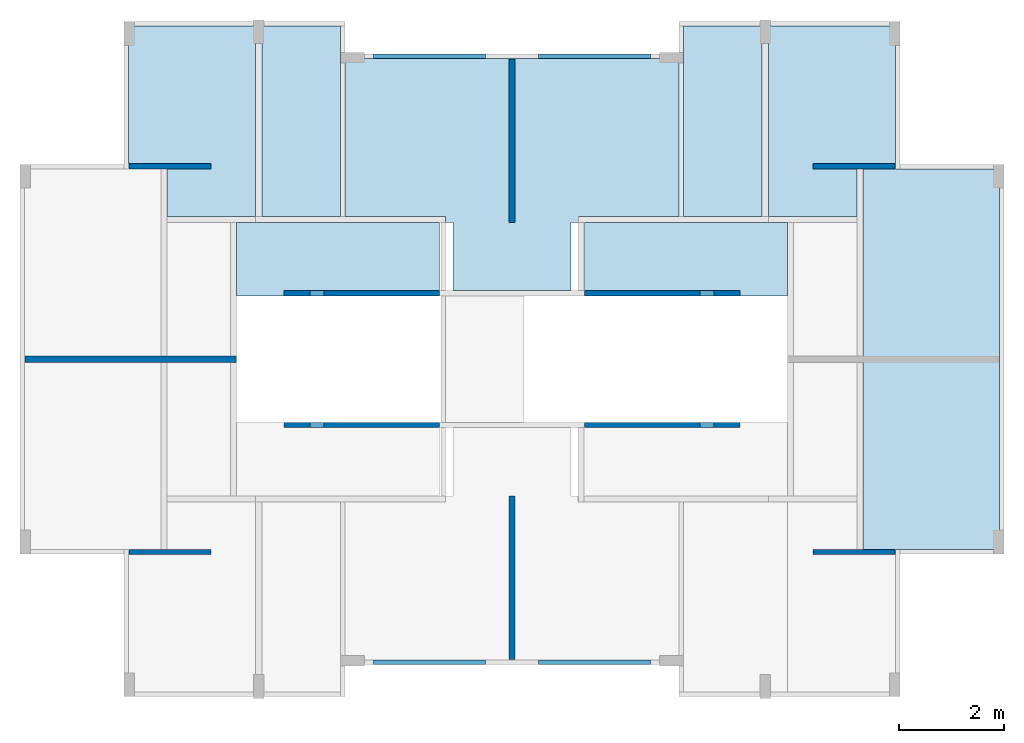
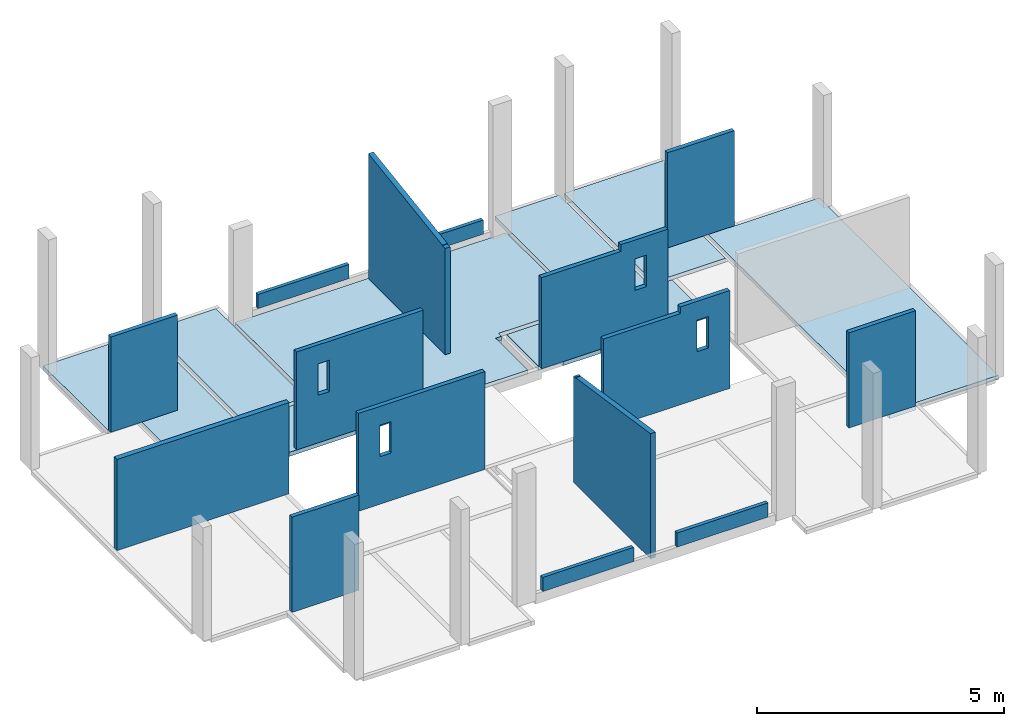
# One storey, part 4 of 5: 15 walls, 8 slabs, 4 openings.
"""IFC4 building model written with IfcOpenShell, lengths in metres."""

from ifc_helpers import new_model, entity, si_unit, converted_unit, derived_unit, direction, frame, frame_2d, origin, place, context, subcontext, project, spatial, polyline, indexed_curve, rectangle, outline, extrude, polygons, material, type_object, element, save


model = new_model("IFC4")

# Units and contexts
model_context = context("Model", 3, precision=1e-05, world=origin(), true_north=direction((6.123031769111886e-17, 1.0)))
body_context = subcontext(model_context, "Body", "Model", "MODEL_VIEW")
ifc_project = project(units=[si_unit("LENGTHUNIT", "METRE"), si_unit("AREAUNIT", "SQUARE_METRE"), si_unit("VOLUMEUNIT", "CUBIC_METRE"), converted_unit("PLANEANGLEUNIT", "DEGREE", entity("IfcRatioMeasure", 0.017453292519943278), si_unit("PLANEANGLEUNIT", "RADIAN"), dimensions=[0, 0, 0, 0, 0, 0, 0]), si_unit("MASSUNIT", "GRAM", prefix="KILO"), derived_unit("MASSDENSITYUNIT", [(si_unit("MASSUNIT", "GRAM", prefix="KILO"), 1), (si_unit("LENGTHUNIT", "METRE"), -3)]), derived_unit("IONCONCENTRATIONUNIT", [(si_unit("MASSUNIT", "GRAM", prefix="KILO"), 1), (si_unit("LENGTHUNIT", "METRE"), -3)]), derived_unit("MOMENTOFINERTIAUNIT", [(si_unit("LENGTHUNIT", "METRE"), 4)]), si_unit("TIMEUNIT", "SECOND"), si_unit("FREQUENCYUNIT", "HERTZ"), si_unit("THERMODYNAMICTEMPERATUREUNIT", "DEGREE_CELSIUS"), derived_unit("THERMALTRANSMITTANCEUNIT", [(si_unit("MASSUNIT", "GRAM", prefix="KILO"), 1), (si_unit("THERMODYNAMICTEMPERATUREUNIT", "KELVIN"), -1), (si_unit("TIMEUNIT", "SECOND"), -3)]), derived_unit("THERMALCONDUCTANCEUNIT", [(si_unit("MASSUNIT", "GRAM", prefix="KILO"), 1), (si_unit("THERMODYNAMICTEMPERATUREUNIT", "KELVIN"), -1), (si_unit("TIMEUNIT", "SECOND"), -3), (si_unit("LENGTHUNIT", "METRE"), 1)]), derived_unit("VOLUMETRICFLOWRATEUNIT", [(si_unit("LENGTHUNIT", "METRE"), 3), (si_unit("TIMEUNIT", "SECOND"), -1)]), derived_unit("MASSFLOWRATEUNIT", [(si_unit("MASSUNIT", "GRAM", prefix="KILO"), 1), (si_unit("TIMEUNIT", "SECOND"), -1)]), derived_unit("ROTATIONALFREQUENCYUNIT", [(si_unit("TIMEUNIT", "SECOND"), -1)]), si_unit("ELECTRICCURRENTUNIT", "AMPERE"), si_unit("ELECTRICVOLTAGEUNIT", "VOLT"), si_unit("POWERUNIT", "WATT"), si_unit("FORCEUNIT", "NEWTON", prefix="KILO"), si_unit("ILLUMINANCEUNIT", "LUX"), si_unit("LUMINOUSFLUXUNIT", "LUMEN"), si_unit("LUMINOUSINTENSITYUNIT", "CANDELA"), derived_unit("USERDEFINED", [(si_unit("MASSUNIT", "GRAM", prefix="KILO"), -1), (si_unit("LENGTHUNIT", "METRE"), -2), (si_unit("TIMEUNIT", "SECOND"), 3), (si_unit("LUMINOUSFLUXUNIT", "LUMEN"), 1)]), derived_unit("USERDEFINED", [(si_unit("MASSUNIT", "GRAM", prefix="KILO"), 1), (si_unit("TIMEUNIT", "SECOND"), -3), (si_unit("LENGTHUNIT", "METRE"), 3), (si_unit("ELECTRICCURRENTUNIT", "AMPERE"), -2)]), derived_unit("SOUNDPOWERUNIT", [(si_unit("MASSUNIT", "GRAM", prefix="KILO"), 1), (si_unit("TIMEUNIT", "SECOND"), -3), (si_unit("LENGTHUNIT", "METRE"), 2)]), derived_unit("SOUNDPRESSUREUNIT", [(si_unit("MASSUNIT", "GRAM", prefix="KILO"), 1), (si_unit("LENGTHUNIT", "METRE"), -1), (si_unit("TIMEUNIT", "SECOND"), -2)]), derived_unit("LINEARVELOCITYUNIT", [(si_unit("LENGTHUNIT", "METRE"), 1), (si_unit("TIMEUNIT", "SECOND"), -1)]), si_unit("PRESSUREUNIT", "PASCAL"), derived_unit("USERDEFINED", [(si_unit("MASSUNIT", "GRAM", prefix="KILO"), 1), (si_unit("LENGTHUNIT", "METRE"), -2), (si_unit("TIMEUNIT", "SECOND"), -2)]), derived_unit("LINEARFORCEUNIT", [(si_unit("MASSUNIT", "GRAM", prefix="KILO"), 1), (si_unit("TIMEUNIT", "SECOND"), -2)]), derived_unit("PLANARFORCEUNIT", [(si_unit("MASSUNIT", "GRAM", prefix="KILO"), 1), (si_unit("LENGTHUNIT", "METRE"), -1), (si_unit("TIMEUNIT", "SECOND"), -2)]), derived_unit("SPECIFICHEATCAPACITYUNIT", [(si_unit("THERMODYNAMICTEMPERATUREUNIT", "KELVIN"), -1), (si_unit("LENGTHUNIT", "METRE"), 2), (si_unit("TIMEUNIT", "SECOND"), -2)]), derived_unit("HEATINGVALUEUNIT", [(si_unit("LENGTHUNIT", "METRE"), 2), (si_unit("TIMEUNIT", "SECOND"), -2)]), derived_unit("VAPORPERMEABILITYUNIT", [(si_unit("LENGTHUNIT", "METRE"), -1), (si_unit("TIMEUNIT", "SECOND"), 1)]), derived_unit("DYNAMICVISCOSITYUNIT", [(si_unit("MASSUNIT", "GRAM", prefix="KILO"), 1), (si_unit("TIMEUNIT", "SECOND"), -1), (si_unit("LENGTHUNIT", "METRE"), -1)]), derived_unit("THERMALEXPANSIONCOEFFICIENTUNIT", [(si_unit("THERMODYNAMICTEMPERATUREUNIT", "KELVIN"), -1)]), derived_unit("MODULUSOFELASTICITYUNIT", [(si_unit("MASSUNIT", "GRAM", prefix="KILO"), 1), (si_unit("LENGTHUNIT", "METRE"), -1), (si_unit("TIMEUNIT", "SECOND"), -2)]), derived_unit("ISOTHERMALMOISTURECAPACITYUNIT", [(si_unit("LENGTHUNIT", "METRE"), 3), (si_unit("MASSUNIT", "GRAM", prefix="KILO"), -1)]), derived_unit("MOISTUREDIFFUSIVITYUNIT", [(si_unit("TIMEUNIT", "SECOND"), -1), (si_unit("LENGTHUNIT", "METRE"), 2)])], contexts=[model_context])

# Site, building, storey
site_placement = place(None, origin())
site = spatial("IfcSite", under=ifc_project, at=site_placement, Name="Default", CompositionType="ELEMENT")
building_placement = place(site_placement, origin())
building = spatial("IfcBuilding", under=site, at=building_placement, Name="Las nubes", CompositionType="ELEMENT")
storey_placement = place(building_placement, frame((0.0, 0.0, 11.750000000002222)))
storey = spatial("IfcBuildingStorey", under=building, at=storey_placement, Name="PISO 6", CompositionType="ELEMENT", Elevation=11.750000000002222)

# Slabs
ifc_material_1 = material(Name="Concrete - Cast-in-Place Concrete - 28 MPa SLAB", Category="Materials")
slab_type = type_object("IfcSlabType", Name="Floor:PLACA ESTRUCTURAL 0.10", PredefinedType="FLOOR", material=ifc_material_1)
slab_1_placement = place(storey_placement, origin())
element("IfcSlab", 1, at=slab_1_placement, inside=storey, type_object=slab_type, material=ifc_material_1, Name="Floor:PLACA ESTRUCTURAL 0.10", ObjectType="Floor:PLACA ESTRUCTURAL 0.10", PredefinedType="FLOOR", context=body_context, shape_type="SweptSolid", body=[
    extrude(outline(indexed_curve([(-0.5383333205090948, -1.0516670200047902), (2.0766666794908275, -1.0516670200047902), (2.07666667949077, 1.368332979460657), (-1.5383333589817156, 1.3683329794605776), (-1.5383333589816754, -0.316665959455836), (-0.5383333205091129, -0.31666595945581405), (-0.5383333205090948, -1.0516670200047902)], self_intersect=False)), frame((3.0841670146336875, -2.1716667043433, 0.0), z_axis=(0.0, 0.0, -1.0), x_axis=(0.0, 1.0, 0.0)), (0.0, 0.0, 1.0), 0.10000000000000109),
])
slab_2_placement = place(storey_placement, frame((2.767501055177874, -12.755000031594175, -0.10000000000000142)))
element("IfcSlab", 2, at=slab_2_placement, inside=storey, type_object=slab_type, Name="Floor:PLACA ESTRUCTURAL 0.10:2", ObjectType="Floor:PLACA ESTRUCTURAL 0.10", PredefinedType="FLOOR", context=body_context, shape_type="SweptSolid", body=[
    extrude(outline(polyline([(1.374999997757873, 2.5999999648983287), (1.374999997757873, 1.300000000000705), (1.8799999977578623, 1.300000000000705), (1.8799999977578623, 1.2000000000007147), (5.235000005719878, 1.2000000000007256), (5.235000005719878, 2.5999999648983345), (1.374999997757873, 2.5999999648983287)])), frame((6.554998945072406, 6.330000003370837, 0.10000000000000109), z_axis=(0.0, 0.0, -1.0), x_axis=(-1.0, 0.0, 0.0)), (0.0, 0.0, 1.0), 0.10000000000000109),
])
slab_3_placement = place(storey_placement, frame((2.767501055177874, -12.755000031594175, -0.10000000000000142)))
element("IfcSlab", 3, at=slab_3_placement, inside=storey, type_object=slab_type, Name="Floor:PLACA ESTRUCTURAL 0.10:4", ObjectType="Floor:PLACA ESTRUCTURAL 0.10", PredefinedType="FLOOR", context=body_context, shape_type="SweptSolid", body=[
    extrude(rectangle(XDim=3.614999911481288, YDim=1.4999999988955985, at=frame_2d((4.005000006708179, 4.522500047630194), x_axis=(0.0, -1.0))), frame((6.554998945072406, 6.330000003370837, 0.10000000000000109), z_axis=(0.0, 0.0, -1.0), x_axis=(-1.0, 0.0, 0.0)), (0.0, 0.0, 1.0), 0.10000000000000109),
])
slab_4_placement = place(storey_placement, frame((2.767501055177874, -12.755000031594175, -0.10000000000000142)))
element("IfcSlab", 4, at=slab_4_placement, inside=storey, type_object=slab_type, Name="Floor:PLACA ESTRUCTURAL 0.10:6", ObjectType="Floor:PLACA ESTRUCTURAL 0.10", PredefinedType="FLOOR", context=body_context, shape_type="SweptSolid", body=[
    extrude(outline(polyline([(3.1700000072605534, 2.71500009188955), (3.1700000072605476, 5.715000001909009), (-3.1700000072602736, 5.715000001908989), (-3.1700000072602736, 2.71500009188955), (-1.259999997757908, 2.71500009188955), (-1.259999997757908, 2.5999999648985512), (-1.1199999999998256, 2.5999999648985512), (-1.1199999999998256, 1.3000000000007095), (1.1200000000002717, 1.300000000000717), (1.1200000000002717, 2.5999999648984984), (1.2599999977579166, 2.5999999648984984), (1.2599999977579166, 2.71500009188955), (3.1700000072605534, 2.71500009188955)])), frame((6.554998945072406, 6.330000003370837, 0.10000000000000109), z_axis=(0.0, 0.0, -1.0), x_axis=(-1.0, 0.0, 0.0)), (0.0, 0.0, 1.0), 0.10000000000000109),
])
slab_5_placement = place(storey_placement, frame((2.767501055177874, -12.755000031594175, -0.10000000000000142)))
element("IfcSlab", 5, at=slab_5_placement, inside=storey, type_object=slab_type, Name="Floor:PLACA ESTRUCTURAL 0.10:9", ObjectType="Floor:PLACA ESTRUCTURAL 0.10", PredefinedType="FLOOR", context=body_context, shape_type="SweptSolid", body=[
    extrude(rectangle(XDim=1.499999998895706, YDim=3.6149999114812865, at=frame_2d((-4.005000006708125, 4.522500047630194), x_axis=(1.0, 0.0))), frame((6.554998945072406, 6.330000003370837, 0.10000000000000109), z_axis=(0.0, 0.0, -1.0), x_axis=(-1.0, 0.0, 0.0)), (0.0, 0.0, 1.0), 0.10000000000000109),
])
slab_6_placement = place(storey_placement, frame((2.767501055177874, -12.755000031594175, -0.10000000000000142)))
element("IfcSlab", 6, at=slab_6_placement, inside=storey, type_object=slab_type, Name="Floor:PLACA ESTRUCTURAL 0.10:11", ObjectType="Floor:PLACA ESTRUCTURAL 0.10", PredefinedType="FLOOR", context=body_context, shape_type="SweptSolid", body=[
    extrude(outline(polyline([(-3.1200000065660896, 1.2000000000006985), (-1.879999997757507, 1.200000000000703), (-1.8799999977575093, 1.300000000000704), (-1.3749999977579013, 1.300000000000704), (-1.3749999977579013, 2.600000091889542), (-5.235000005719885, 2.6000000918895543), (-5.235000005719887, 1.2000000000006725), (-3.2350000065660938, 1.2000000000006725), (-3.2350000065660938, 1.3000000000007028), (-3.1200000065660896, 1.3000000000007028), (-3.1200000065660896, 1.2000000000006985)])), frame((6.554998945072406, 6.330000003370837, 0.10000000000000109), z_axis=(0.0, 0.0, -1.0), x_axis=(-1.0, 0.0, 0.0)), (0.0, 0.0, 1.0), 0.10000000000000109),
])
slab_7_placement = place(storey_placement, origin())
element("IfcSlab", 7, at=slab_7_placement, inside=storey, type_object=slab_type, material=ifc_material_1, Name="Floor:PLACA ESTRUCTURAL 0.10", ObjectType="Floor:PLACA ESTRUCTURAL 0.10", PredefinedType="FLOOR", context=body_context, shape_type="SweptSolid", body=[
    extrude(outline(indexed_curve([(-3.7150000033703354, -0.9587507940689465), (3.7150000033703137, -0.9587507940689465), (3.7150000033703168, -0.33874973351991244), (3.614999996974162, -0.33874973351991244), (3.614999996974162, 1.636250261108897), (-3.6149999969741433, 1.636250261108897), (-3.6149999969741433, -0.3387497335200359), (-3.715000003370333, -0.33874973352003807), (-3.7150000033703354, -0.9587507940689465)], self_intersect=False)), frame((16.95124973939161, -6.425000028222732, 0.0), z_axis=(0.0, 0.0, -1.0), x_axis=(0.0, 1.0, 0.0)), (0.0, 0.0, 1.0), 0.10000000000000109),
])
slab_8_placement = place(storey_placement, origin())
element("IfcSlab", 8, at=slab_8_placement, inside=storey, type_object=slab_type, material=ifc_material_1, Name="Floor:PLACA ESTRUCTURAL 0.10", ObjectType="Floor:PLACA ESTRUCTURAL 0.10", PredefinedType="FLOOR", context=body_context, shape_type="SweptSolid", body=[
    extrude(outline(indexed_curve([(-1.5383333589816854, -1.3683329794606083), (2.0766666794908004, -1.3683329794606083), (2.076666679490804, 1.0516670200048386), (-0.538333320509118, 1.0516670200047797), (-0.5383333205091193, 0.3166659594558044), (-1.538333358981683, 0.31666595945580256), (-1.5383333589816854, -1.3683329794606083)], self_intersect=False)), frame((15.56083298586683, -2.1716667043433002, 0.0), z_axis=(0.0, 0.0, -1.0), x_axis=(0.0, 1.0, 0.0)), (0.0, 0.0, 1.0), 0.10000000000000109),
])

# Walls
ifc_material_2 = material(Name="Concrete - Cast-in-Place Concrete - 35 MPa", Category="Materials")
wall_type_1 = type_object("IfcWallType", Name="Basic Wall:MURO 12cm", PredefinedType="STANDARD")
wall_1_placement = place(storey_placement, frame((9.322500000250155, -12.129999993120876, 0.0), z_axis=(0.0, 0.0, 1.0), x_axis=(0.0, 1.0, 0.0)))
element("IfcWall", 9, at=wall_1_placement, inside=storey, type_object=wall_type_1, material=ifc_material_2, Name="Basic Wall:MURO 12cm", ObjectType="Basic Wall:MURO 12cm", PredefinedType="NOTDEFINED", context=body_context, shape_type="Tessellation", body=[
    polygons([(0.0, -0.05999999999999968, 0.0), (3.105000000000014, -0.06000000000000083, 0.0), (3.1050000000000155, -0.05999999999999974, 2.626200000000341), (3.105000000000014, -0.06000000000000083, 2.632511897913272), (3.0339364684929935, -0.06000000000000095, 2.643207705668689), (3.0326659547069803, -0.05999999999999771, 2.634737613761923), (2.9900000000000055, -0.059999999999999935, 2.641137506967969), (0.0, -0.05999999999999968, 3.0896375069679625), (3.105000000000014, 0.060000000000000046, 0.0), (0.0, 0.060000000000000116, 0.0), (0.0, 0.060000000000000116, 3.0896375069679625), (2.990000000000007, 0.05999999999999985, 2.641137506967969), (3.032665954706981, 0.06000000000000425, 2.634737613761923), (3.0339364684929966, 0.05999999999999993, 2.6432077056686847), (3.105000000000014, 0.060000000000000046, 2.632511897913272), (3.1050000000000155, 0.060000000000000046, 2.626200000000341)], [[[1, 2, 3, 4, 5, 6, 7, 8]], [[9, 10, 11, 12, 13, 14, 15, 16]], [[2, 1, 10, 9]], [[4, 3, 2, 9, 16, 15]], [[4, 15, 14, 5]], [[10, 1, 8, 11]], [[13, 6, 5, 14]], [[6, 13, 12, 11, 8, 7]]], closed=True),
])
wall_2_placement = place(storey_placement, frame((0.06750000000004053, -6.425000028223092, 0.0)))
element("IfcWall", 10, at=wall_2_placement, inside=storey, type_object=wall_type_1, material=ifc_material_2, Name="Basic Wall:MURO 12cm", ObjectType="Basic Wall:MURO 12cm", PredefinedType="NOTDEFINED", context=body_context, shape_type="Tessellation", body=[
    polygons([(-7.388264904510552e-18, -0.05999999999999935, 2.1657342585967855e-15), (4.0199999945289, -0.05999999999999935, 2.1657342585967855e-15), (4.0199999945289, -0.05999999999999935, 2.248700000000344), (3.9049999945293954, -0.05999999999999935, 2.2487000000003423), (3.9049999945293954, -0.05999999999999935, 2.250000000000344), (2.6451332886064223e-17, -0.05999999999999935, 2.250000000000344), (4.0199999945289, 0.060000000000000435, 2.1657342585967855e-15), (5.5720148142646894e-18, 0.060000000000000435, 2.1657342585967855e-15), (5.5720148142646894e-18, 0.060000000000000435, 2.250000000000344), (3.904999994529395, 0.060000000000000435, 2.250000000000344), (3.904999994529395, 0.060000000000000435, 2.2487000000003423), (4.0199999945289, 0.060000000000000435, 2.248700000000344)], [[[1, 2, 3, 4, 5, 6]], [[7, 8, 9, 10, 11, 12]], [[2, 1, 8, 7]], [[2, 7, 12, 3]], [[8, 1, 6, 9]], [[9, 6, 5, 10]], [[11, 4, 3, 12]], [[4, 11, 10, 5]]], closed=True),
])
wall_3_placement = place(storey_placement, frame((9.322500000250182, -0.720000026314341, 0.0), z_axis=(0.0, 0.0, 1.0), x_axis=(0.0, -1.0, 0.0)))
element("IfcWall", 11, at=wall_3_placement, inside=storey, type_object=wall_type_1, material=ifc_material_2, Name="Basic Wall:MURO 12cm", ObjectType="Basic Wall:MURO 12cm", PredefinedType="NOTDEFINED", context=body_context, shape_type="Tessellation", body=[
    polygons([(2.707167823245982e-16, -0.06000000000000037, 0.0), (3.1050000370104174, -0.06000000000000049, 0.0), (3.1050000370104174, -0.06000000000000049, 2.626200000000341), (2.990000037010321, -0.060000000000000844, 2.626200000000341), (2.990000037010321, -0.060000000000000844, 2.641137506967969), (2.707167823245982e-16, -0.06000000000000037, 3.08963751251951), (3.1050000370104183, 0.059999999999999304, 0.0), (2.707167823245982e-16, 0.05999999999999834, 0.0), (2.707167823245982e-16, 0.05999999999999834, 3.08963751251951), (2.990000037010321, 0.05999999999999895, 2.641137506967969), (2.99000003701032, 0.05999999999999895, 2.626200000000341), (3.1050000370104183, 0.059999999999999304, 2.626200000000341)], [[[1, 2, 3, 4, 5, 6]], [[7, 8, 9, 10, 11, 12]], [[2, 1, 8, 7]], [[2, 7, 12, 3]], [[8, 1, 6, 9]], [[4, 3, 12, 11]], [[4, 11, 10, 5]], [[6, 5, 10, 9]]], closed=True),
])
wall_type_2 = type_object("IfcWallType", Name="Basic Wall:MURO 10cm", PredefinedType="STANDARD")
wall_4_placement = place(storey_placement, frame((3.602499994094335, -10.090000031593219, 0.0), z_axis=(0.0, 0.0, 1.0), x_axis=(-1.0, 0.0, 0.0)))
element("IfcWall", 12, at=wall_4_placement, inside=storey, type_object=wall_type_2, material=ifc_material_2, Name="Basic Wall:MURO 10cm", ObjectType="Basic Wall:MURO 10cm", PredefinedType="NOTDEFINED", context=body_context, shape_type="SweptSolid", body=[
    extrude(outline(indexed_curve([(1.5599999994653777, 0.049999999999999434), (-1.3794485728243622e-16, 0.04999999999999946), (1.3794485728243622e-16, -0.04999999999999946), (1.5599999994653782, -0.04999999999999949), (1.5599999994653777, 0.049999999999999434)], self_intersect=False)), origin(), (0.0, 0.0, 1.0), 2.3500000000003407),
])

# Wall, opening
wall_5_placement = place(storey_placement, frame((7.942500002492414, -7.675000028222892, 0.0), z_axis=(0.0, 0.0, 1.0), x_axis=(-1.0, 0.0, 0.0)))
wall_5 = element("IfcWall", 13, at=wall_5_placement, inside=storey, type_object=wall_type_2, material=ifc_material_2, Name="Basic Wall:MURO 10cm", ObjectType="Basic Wall:MURO 10cm", PredefinedType="NOTDEFINED", context=body_context, shape_type="Tessellation", body=[
    polygons([(3.4812988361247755e-16, -0.050000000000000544, 2.1657342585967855e-15), (0.5000000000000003, -0.050000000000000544, 2.1657342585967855e-15), (2.9550000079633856, -0.050000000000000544, 2.1657342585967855e-15), (2.9550000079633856, -0.050000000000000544, 2.416100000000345), (3.4812988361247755e-16, -0.050000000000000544, 2.416100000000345), (2.4550000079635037, -0.050000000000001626, 1.1737124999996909), (2.1898875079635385, -0.050000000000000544, 1.1737124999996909), (2.1898875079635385, -0.050000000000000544, 1.9499999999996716), (2.4550000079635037, -0.050000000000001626, 1.9499999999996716), (2.9550000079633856, 0.04999999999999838, 2.1657342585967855e-15), (0.5000000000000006, 0.04999999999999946, 2.1657342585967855e-15), (4.947108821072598e-16, 0.050000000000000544, 2.1657342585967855e-15), (4.947108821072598e-16, 0.050000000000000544, 2.416100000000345), (2.9550000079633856, 0.04999999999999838, 2.416100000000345), (2.189887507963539, 0.04999999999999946, 1.1737124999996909), (2.4550000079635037, 0.04999999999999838, 1.1737124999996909), (2.4550000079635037, 0.04999999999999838, 1.9499999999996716), (2.189887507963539, 0.04999999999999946, 1.9499999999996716)], [[[1, 2, 3, 4, 5], [6, 7, 8, 9]], [[10, 11, 12, 13, 14], [15, 16, 17, 18]], [[5, 4, 14, 13]], [[3, 2, 1, 12, 11, 10]], [[3, 10, 14, 4]], [[12, 1, 5, 13]], [[7, 6, 16, 15]], [[8, 7, 15, 18]], [[9, 8, 18, 17]], [[6, 9, 17, 16]]], closed=True),
])
opening_1_placement = place(wall_5_placement, origin())
element("IfcOpeningElement", 14, at=opening_1_placement, cuts=wall_5, Name="Basic Wall:MURO 10cm", PredefinedType="OPENING", context=body_context, shape_type="SweptSolid", body=[
    extrude(outline(indexed_curve([(-0.38814374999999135, 0.1325562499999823), (-0.38814374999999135, -0.1325562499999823), (0.3881437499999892, -0.1325562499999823), (0.3881437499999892, 0.1325562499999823), (-0.38814374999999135, 0.1325562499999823)], self_intersect=False)), frame((2.322443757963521, 0.050000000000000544, 1.5618562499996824), z_axis=(0.0, 1.0, 0.0), x_axis=(0.0, 0.0, 1.0)), (0.0, 0.0, -1.0), 0.1),
])

# Walls
wall_6_placement = place(storey_placement, frame((3.602499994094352, -2.7600000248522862, 0.0), z_axis=(0.0, 0.0, 1.0), x_axis=(-1.0, 0.0, 0.0)))
element("IfcWall", 15, at=wall_6_placement, inside=storey, type_object=wall_type_2, material=ifc_material_2, Name="Basic Wall:MURO 10cm", ObjectType="Basic Wall:MURO 10cm", PredefinedType="NOTDEFINED", context=body_context, shape_type="SweptSolid", body=[
    extrude(outline(indexed_curve([(1.559999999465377, 0.04999999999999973), (-9.55427559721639e-17, 0.05), (9.55427559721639e-17, -0.05), (1.559999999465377, -0.05000000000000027), (1.559999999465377, 0.04999999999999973)], self_intersect=False)), origin(), (0.0, 0.0, 1.0), 2.3500000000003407),
])
wall_7_placement = place(storey_placement, frame((15.042500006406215, -2.7600000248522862, 0.0)))
element("IfcWall", 16, at=wall_7_placement, inside=storey, type_object=wall_type_2, material=ifc_material_2, Name="Basic Wall:MURO 10cm", ObjectType="Basic Wall:MURO 10cm", PredefinedType="NOTDEFINED", context=body_context, shape_type="SweptSolid", body=[
    extrude(outline(indexed_curve([(1.5599999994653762, 0.05000000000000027), (9.55427559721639e-17, 0.05), (-9.55427559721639e-17, -0.05), (1.5599999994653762, -0.04999999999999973), (1.5599999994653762, 0.05000000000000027)], self_intersect=False)), origin(), (0.0, 0.0, 1.0), 2.3500000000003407),
])
wall_8_placement = place(storey_placement, frame((15.042500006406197, -10.090000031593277, 0.0)))
element("IfcWall", 17, at=wall_8_placement, inside=storey, type_object=wall_type_2, material=ifc_material_2, Name="Basic Wall:MURO 10cm", ObjectType="Basic Wall:MURO 10cm", PredefinedType="NOTDEFINED", context=body_context, shape_type="SweptSolid", body=[
    extrude(outline(indexed_curve([(1.559999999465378, 0.04999999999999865), (-3.211400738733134e-16, 0.04999999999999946), (3.211400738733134e-16, -0.04999999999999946), (1.5599999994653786, -0.05000000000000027), (1.559999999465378, 0.04999999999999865)], self_intersect=False)), origin(), (0.0, 0.0, 1.0), 2.3500000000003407),
])

# Wall, opening
wall_9_placement = place(storey_placement, frame((7.942500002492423, -5.175000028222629, 0.0), z_axis=(0.0, 0.0, 1.0), x_axis=(-1.0, 0.0, 0.0)))
wall_9 = element("IfcWall", 18, at=wall_9_placement, inside=storey, type_object=wall_type_2, material=ifc_material_2, Name="Basic Wall:MURO 10cm", ObjectType="Basic Wall:MURO 10cm", PredefinedType="NOTDEFINED", context=body_context, shape_type="Tessellation", body=[
    polygons([(2.0979958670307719e-16, -0.050000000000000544, 2.1657342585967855e-15), (0.5000000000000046, -0.050000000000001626, 2.1657342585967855e-15), (2.955000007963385, -0.050000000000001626, 2.1657342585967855e-15), (2.955000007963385, -0.050000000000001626, 2.416100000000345), (2.0979958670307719e-16, -0.050000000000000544, 2.416100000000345), (2.455000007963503, -0.050000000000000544, 1.9499999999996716), (2.455000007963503, -0.050000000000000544, 1.1737124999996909), (2.18988750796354, -0.050000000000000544, 1.1737124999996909), (2.18988750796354, -0.050000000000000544, 1.9499999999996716), (2.9550000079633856, 0.04999999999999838, 2.1657342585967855e-15), (0.5000000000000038, 0.04999999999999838, 2.1657342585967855e-15), (5.361122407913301e-16, 0.04999999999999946, 2.1657342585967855e-15), (5.361122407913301e-16, 0.04999999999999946, 2.416100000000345), (2.9550000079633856, 0.04999999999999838, 2.416100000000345), (2.4550000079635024, 0.04999999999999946, 1.1737124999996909), (2.4550000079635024, 0.04999999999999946, 1.9499999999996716), (2.189887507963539, 0.04999999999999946, 1.9499999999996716), (2.189887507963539, 0.04999999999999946, 1.1737124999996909)], [[[1, 2, 3, 4, 5], [6, 7, 8, 9]], [[10, 11, 12, 13, 14], [15, 16, 17, 18]], [[5, 4, 14, 13]], [[3, 2, 1, 12, 11, 10]], [[3, 10, 14, 4]], [[12, 1, 5, 13]], [[7, 6, 16, 15]], [[8, 7, 15, 18]], [[9, 8, 18, 17]], [[6, 9, 17, 16]]], closed=True),
])
opening_2_placement = place(wall_9_placement, origin())
element("IfcOpeningElement", 19, at=opening_2_placement, cuts=wall_9, Name="Basic Wall:MURO 10cm", PredefinedType="OPENING", context=body_context, shape_type="SweptSolid", body=[
    extrude(outline(indexed_curve([(-0.13255624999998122, -0.3881437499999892), (0.1325562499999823, -0.3881437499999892), (0.1325562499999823, 0.38814374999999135), (-0.13255624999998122, 0.38814374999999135), (-0.13255624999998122, -0.3881437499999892)], self_intersect=False)), frame((2.322443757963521, 0.050000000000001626, 1.5618562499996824), z_axis=(0.0, -1.0, 0.0), x_axis=(-1.0, 0.0, 0.0)), (0.0, 0.0, 1.0), 0.1),
])

wall_10_placement = place(storey_placement, frame((10.702499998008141, -5.175000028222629, 0.0)))
wall_10 = element("IfcWall", 20, at=wall_10_placement, inside=storey, type_object=wall_type_2, material=ifc_material_2, Name="Basic Wall:MURO 10cm", ObjectType="Basic Wall:MURO 10cm", PredefinedType="NOTDEFINED", context=body_context, shape_type="Tessellation", body=[
    polygons([(-5.4675488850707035e-16, -0.050000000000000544, 2.1657342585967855e-15), (0.49999999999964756, -0.04999999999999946, 2.1657342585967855e-15), (2.9550000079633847, -0.04999999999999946, 2.1657342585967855e-15), (2.9550000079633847, -0.04999999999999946, 2.416100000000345), (1.8550000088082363, -0.050000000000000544, 2.416100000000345), (1.8550000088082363, -0.050000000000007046, 2.250066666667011), (1.7400000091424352, -0.050000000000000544, 2.2500938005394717), (-5.4675488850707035e-16, -0.050000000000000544, 2.250000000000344), (2.1898875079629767, -0.050000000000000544, 1.1737125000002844), (2.1898875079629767, -0.050000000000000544, 1.9500000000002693), (2.455000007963, -0.050000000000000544, 1.9500000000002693), (2.455000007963, -0.050000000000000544, 1.1737125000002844), (2.955000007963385, 0.050000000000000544, 2.1657342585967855e-15), (0.49999999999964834, 0.050000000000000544, 2.1657342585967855e-15), (2.097995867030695e-16, 0.04999999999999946, 2.1657342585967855e-15), (2.097995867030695e-16, 0.04999999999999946, 2.250000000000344), (1.740000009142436, 0.04999999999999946, 2.2500938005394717), (1.855000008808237, 0.04999999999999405, 2.250066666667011), (1.855000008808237, 0.04999999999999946, 2.416100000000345), (2.955000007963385, 0.050000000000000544, 2.416100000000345), (2.1898875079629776, 0.04999999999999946, 1.9500000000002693), (2.1898875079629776, 0.04999999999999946, 1.1737125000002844), (2.4550000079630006, 0.04999999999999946, 1.1737125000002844), (2.4550000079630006, 0.04999999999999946, 1.9500000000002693)], [[[1, 2, 3, 4, 5, 6, 7, 8], [9, 10, 11, 12]], [[13, 14, 15, 16, 17, 18, 19, 20], [21, 22, 23, 24]], [[16, 8, 7, 6, 18, 17]], [[3, 2, 1, 15, 14, 13]], [[3, 13, 20, 4]], [[1, 8, 16, 15]], [[10, 9, 22, 21]], [[11, 10, 21, 24]], [[12, 11, 24, 23]], [[9, 12, 23, 22]], [[5, 4, 20, 19]], [[18, 6, 5, 19]]], closed=True),
])
opening_3_placement = place(wall_10_placement, origin())
element("IfcOpeningElement", 21, at=opening_3_placement, cuts=wall_10, Name="Basic Wall:MURO 10cm", PredefinedType="OPENING", context=body_context, shape_type="SweptSolid", body=[
    extrude(outline(indexed_curve([(-0.13255625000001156, -0.38814374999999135), (0.1325562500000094, -0.38814374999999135), (0.1325562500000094, 0.38814374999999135), (-0.13255625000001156, 0.38814374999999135), (-0.13255625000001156, -0.38814374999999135)], self_intersect=False)), frame((2.322443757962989, 0.04999999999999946, 1.5618562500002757), z_axis=(0.0, -1.0, 0.0), x_axis=(1.0, 0.0, 0.0)), (0.0, 0.0, 1.0), 0.1),
])

wall_11_placement = place(storey_placement, frame((10.702499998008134, -7.675000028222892, 0.0)))
wall_11 = element("IfcWall", 22, at=wall_11_placement, inside=storey, type_object=wall_type_2, material=ifc_material_2, Name="Basic Wall:MURO 10cm", ObjectType="Basic Wall:MURO 10cm", PredefinedType="NOTDEFINED", context=body_context, shape_type="Tessellation", body=[
    polygons([(4.947108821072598e-16, -0.050000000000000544, 2.1657342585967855e-15), (0.4999999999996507, -0.050000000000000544, 2.1657342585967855e-15), (2.9550000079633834, -0.050000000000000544, 2.1657342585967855e-15), (2.9550000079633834, -0.050000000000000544, 2.416100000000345), (1.7975000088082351, -0.04999999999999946, 2.416100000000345), (1.7975000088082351, -0.05000000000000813, 2.2501000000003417), (4.947108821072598e-16, -0.050000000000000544, 2.2501000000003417), (2.189887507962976, -0.04999999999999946, 1.1737125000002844), (2.189887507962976, -0.04999999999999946, 1.9500000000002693), (2.455000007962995, -0.04999999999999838, 1.9500000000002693), (2.455000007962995, -0.04999999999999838, 1.1737125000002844), (2.9550000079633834, 0.04999999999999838, 2.1657342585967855e-15), (0.4999999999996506, 0.04999999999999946, 2.1657342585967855e-15), (3.4812988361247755e-16, 0.050000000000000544, 2.1657342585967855e-15), (3.4812988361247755e-16, 0.050000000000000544, 2.2501000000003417), (1.797500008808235, 0.04999999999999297, 2.2501000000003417), (1.797500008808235, 0.050000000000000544, 2.416100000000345), (2.9550000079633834, 0.04999999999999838, 2.416100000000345), (2.1898875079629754, 0.04999999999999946, 1.9500000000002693), (2.1898875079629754, 0.04999999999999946, 1.1737125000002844), (2.455000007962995, 0.050000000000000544, 1.1737125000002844), (2.455000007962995, 0.050000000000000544, 1.9500000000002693)], [[[1, 2, 3, 4, 5, 6, 7], [8, 9, 10, 11]], [[12, 13, 14, 15, 16, 17, 18], [19, 20, 21, 22]], [[3, 2, 1, 14, 13, 12]], [[3, 12, 18, 4]], [[14, 1, 7, 15]], [[9, 8, 20, 19]], [[10, 9, 19, 22]], [[11, 10, 22, 21]], [[8, 11, 21, 20]], [[6, 16, 15, 7]], [[5, 4, 18, 17]], [[16, 6, 5, 17]]], closed=True),
])
opening_4_placement = place(wall_11_placement, origin())
element("IfcOpeningElement", 23, at=opening_4_placement, cuts=wall_11, Name="Basic Wall:MURO 10cm", PredefinedType="OPENING", context=body_context, shape_type="SweptSolid", body=[
    extrude(outline(indexed_curve([(-0.1325562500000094, -0.38814374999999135), (0.13255625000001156, -0.38814374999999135), (0.13255625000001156, 0.38814374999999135), (-0.1325562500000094, 0.38814374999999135), (-0.1325562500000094, -0.38814374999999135)], self_intersect=False)), frame((2.322443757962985, 0.050000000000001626, 1.5618562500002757), z_axis=(0.0, -1.0, 0.0), x_axis=(1.0, 0.0, 0.0)), (0.0, 0.0, 1.0), 0.1),
])

# Walls
wall_type_3 = type_object("IfcWallType", Name="Basic Wall:MURO .085cm", PredefinedType="STANDARD")
for number, where, name in (
    (24, (6.692499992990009, -12.182500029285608, 0.14999999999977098), "Basic Wall:MURO .085cm"),
    (25, (9.827500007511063, -12.182500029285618, 0.14999999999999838), "Basic Wall:MURO .085cm"),
):
    element("IfcWall", number, at=place(storey_placement, frame(where)), inside=storey, type_object=wall_type_3, material=ifc_material_1, Name=name, ObjectType="Basic Wall:MURO .085cm", PredefinedType="NOTDEFINED", context=body_context, shape_type="SweptSolid", body=[
        extrude(outline(indexed_curve([(2.1249999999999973, 0.04249999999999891), (-1.7146162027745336e-16, 0.042499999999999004), (1.7146162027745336e-16, -0.042499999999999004), (2.1249999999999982, -0.042499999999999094), (2.1249999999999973, 0.04249999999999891)], self_intersect=False)), origin(), (0.0, 0.0, 1.0), 0.35000000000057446),
    ])
wall_12_placement = place(storey_placement, frame((6.692499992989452, -0.6675000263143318, 0.14999999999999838)))
element("IfcWall", 26, at=wall_12_placement, inside=storey, type_object=wall_type_3, material=ifc_material_1, Name="Basic Wall:MURO .085cm", ObjectType="Basic Wall:MURO .085cm", PredefinedType="NOTDEFINED", context=body_context, shape_type="SweptSolid", body=[
    extrude(outline(indexed_curve([(2.1250000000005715, 0.04249999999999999), (-1.7146162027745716e-16, 0.04249999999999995), (1.7146162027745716e-16, -0.04249999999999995), (2.125000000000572, -0.042499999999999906), (2.1250000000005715, 0.04249999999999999)], self_intersect=False)), origin(), (0.0, 0.0, 1.0), 0.35000000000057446),
])
wall_13_placement = place(storey_placement, frame((9.82750000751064, -0.6675000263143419, 0.14999999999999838)))
element("IfcWall", 27, at=wall_13_placement, inside=storey, type_object=wall_type_3, material=ifc_material_1, Name="Basic Wall:MURO .085cm", ObjectType="Basic Wall:MURO .085cm", PredefinedType="NOTDEFINED", context=body_context, shape_type="SweptSolid", body=[
    extrude(outline(indexed_curve([(2.1249999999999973, 0.04249999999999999), (-1.7146162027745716e-16, 0.04249999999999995), (1.7146162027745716e-16, -0.04249999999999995), (2.1249999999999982, -0.042499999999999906), (2.1249999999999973, 0.04249999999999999)], self_intersect=False)), origin(), (0.0, 0.0, 1.0), 0.35000000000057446),
])

save(model, "model.ifc")
